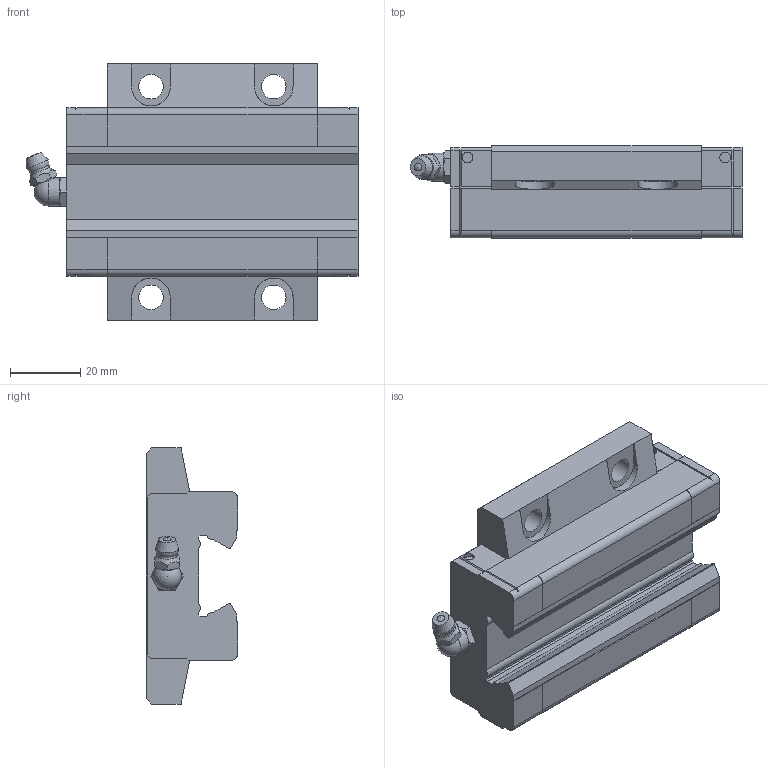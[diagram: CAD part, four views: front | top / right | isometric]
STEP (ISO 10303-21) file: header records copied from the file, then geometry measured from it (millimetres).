
FILE_DESCRIPTION(/* description */ ('STEP AP214'),/* implementation_level */ '2;1');
FILE_NAME(/* name */ 'SSR25XTB1SS(GK) BLOCK(1B-M6F)',/* time_stamp */ '2023-06-01T10:52:27+02:00',/* author */ ('License CC BY-ND 4.0'),/* organization */ ('CADENAS'),/* preprocessor_version */ 'ST-DEVELOPER v19.3',/* originating_system */ 'PARTsolutions',/* authorisation */ ' ');
FILE_SCHEMA (('AUTOMOTIVE_DESIGN {1 0 10303 214 3 1 1}'));
Length unit declared in the file: millimetre
Products named in the file (3): SSR25XTB1SS(GK) BLOCK(1B-M6F); B-M6F-SSR_grease_nipple_joint; SSR25XTBYSSB-M6F Slide15-25
Assembly tree (2 placements, depth 2):
  SSR25XTB1SS(GK) BLOCK(1B-M6F)
    B-M6F-SSR_grease_nipple_joint
    SSR25XTBYSSB-M6F Slide15-25
Bounding box: 94.6 x 26.2 x 73 mm (x, y, z)
Volume: 99929.6 mm3; surface area: 21459.2 mm2
Topology: 2 solids, 2 shells, 186 faces, 480 edges, 303 vertices
Faces by surface type: plane 140, cylinder 28, cone 13, sphere 3, torus 2
Full cylindrical faces by diameter (mm): 3 x4, 4.917 x2, 6 x1, 7 x4, 8 x1
Entity records: 5493 total; most frequent: CARTESIAN_POINT 1054, ORIENTED_EDGE 888, DIRECTION 872, EDGE_CURVE 444, LINE 330, VECTOR 330, VERTEX_POINT 293, AXIS2_PLACEMENT_3D 271
